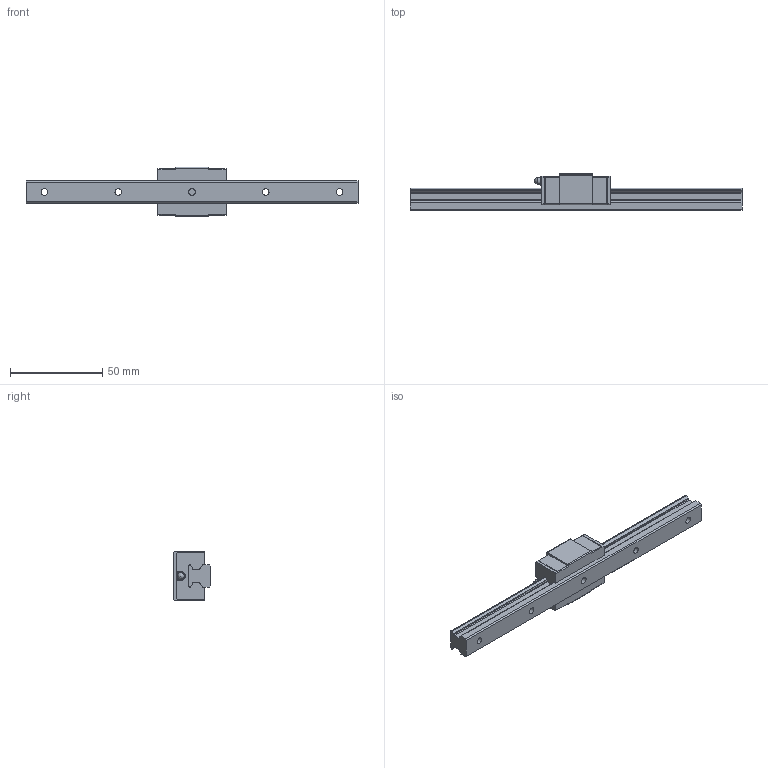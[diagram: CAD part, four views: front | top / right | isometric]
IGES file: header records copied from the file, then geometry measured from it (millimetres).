
Start section: Data from Parasolid IGES Translator 26.0.171, Copyright(c) 2006 Siemens PLM Software. All Rights Reserved.
Global section: file name: HRG12SRM1UU-180LHM_G10_0_PB107_71-5_0_0_01.igs; native system: By Siemens PLM Incorporated; preprocessor: XPlus GENERIC/IGES 26.0.171; author: Noname; organization: Noname; date: 20240523.112239; units: millimetre
Bounding box: 180 x 20 x 27 mm (x, y, z)
Surface area: 15268.9 mm2 (no closed solid volume)
Topology: 0 solids, 0 shells, 153 faces, 835 edges, 803 vertices
Faces by surface type: extrusion 96, revolution 57
